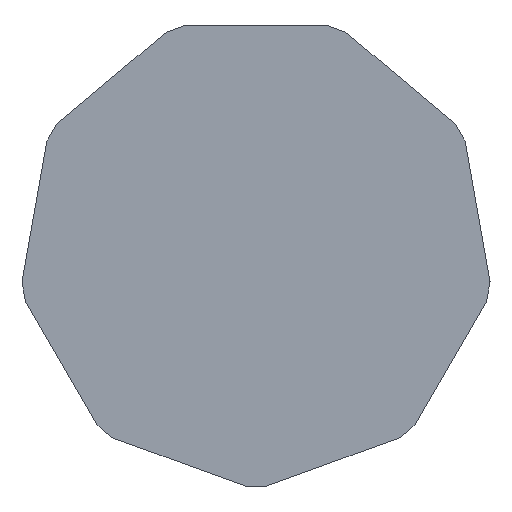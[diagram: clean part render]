
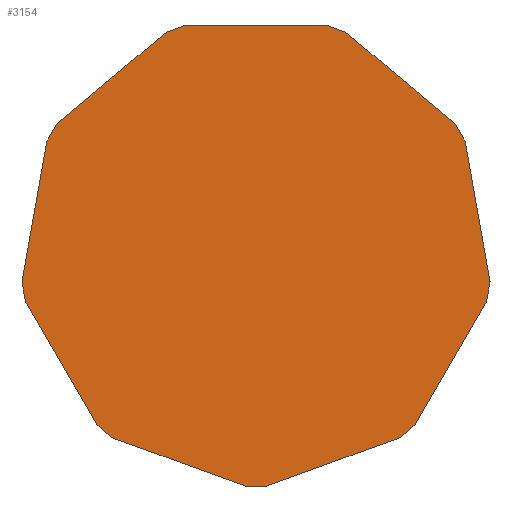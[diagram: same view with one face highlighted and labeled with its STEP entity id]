
A CAD part, front view. The second image highlights one B-rep face of the part: STEP entity #3154.
In plain terms, the highlighted planar face has unit normal (0, -1, 0).
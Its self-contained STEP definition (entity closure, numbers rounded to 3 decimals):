
#54 = PLANE ( 'NONE',  #2437 ) ;
#62 = VERTEX_POINT ( 'NONE', #3467 ) ;
#90 = CARTESIAN_POINT ( 'NONE',  ( -58.972, 0., -76.503 ) ) ;
#127 = VECTOR ( 'NONE', #3585, 1000. ) ;
#150 = CARTESIAN_POINT ( 'NONE',  ( -81.581, 0., 51.72 ) ) ;
#168 = VERTEX_POINT ( 'NONE', #2383 ) ;
#191 = LINE ( 'NONE', #2689, #1286 ) ;
#199 = VERTEX_POINT ( 'NONE', #3295 ) ;
#223 = DIRECTION ( 'NONE',  ( -1., 0., 0. ) ) ;
#226 = ORIENTED_EDGE ( 'NONE', *, *, #2986, .F. ) ;
#233 = VECTOR ( 'NONE', #2913, 1000. ) ;
#252 = EDGE_CURVE ( 'NONE', #3535, #3878, #1773, .T. ) ;
#280 = CARTESIAN_POINT ( 'NONE',  ( 81.581, 0., 51.72 ) ) ;
#319 = EDGE_CURVE ( 'NONE', #2536, #1459, #1919, .T. ) ;
#320 = CARTESIAN_POINT ( 'NONE',  ( -95.74, 0., -12.82 ) ) ;
#351 = ORIENTED_EDGE ( 'NONE', *, *, #2440, .F. ) ;
#405 = CARTESIAN_POINT ( 'NONE',  ( -36.768, 0., 89.323 ) ) ;
#567 = EDGE_CURVE ( 'NONE', #199, #1059, #3117, .T. ) ;
#579 = VERTEX_POINT ( 'NONE', #320 ) ;
#648 = EDGE_CURVE ( 'NONE', #579, #1721, #3694, .T. ) ;
#727 = ORIENTED_EDGE ( 'NONE', *, *, #2242, .F. ) ;
#865 = EDGE_CURVE ( 'NONE', #3118, #62, #1098, .T. ) ;
#898 = CARTESIAN_POINT ( 'NONE',  ( -36.768, 0., 89.323 ) ) ;
#911 = CARTESIAN_POINT ( 'NONE',  ( -94.35, 0., -20.698 ) ) ;
#917 = CARTESIAN_POINT ( 'NONE',  ( -95.74, 0., -12.82 ) ) ;
#950 = CARTESIAN_POINT ( 'NONE',  ( -4., 0., -96.511 ) ) ;
#990 = LINE ( 'NONE', #3766, #2498 ) ;
#1008 = VERTEX_POINT ( 'NONE', #911 ) ;
#1032 = EDGE_CURVE ( 'NONE', #3459, #199, #2752, .T. ) ;
#1059 = VERTEX_POINT ( 'NONE', #1493 ) ;
#1061 = ORIENTED_EDGE ( 'NONE', *, *, #648, .F. ) ;
#1065 = CARTESIAN_POINT ( 'NONE',  ( -65.1, 0., -71.361 ) ) ;
#1098 = LINE ( 'NONE', #2930, #233 ) ;
#1162 = VECTOR ( 'NONE', #3977, 1000. ) ;
#1214 = ORIENTED_EDGE ( 'NONE', *, *, #252, .F. ) ;
#1224 = VECTOR ( 'NONE', #1257, 1000. ) ;
#1257 = DIRECTION ( 'NONE',  ( 1., 0., 0. ) ) ;
#1286 = VECTOR ( 'NONE', #3229, 1000. ) ;
#1336 = EDGE_CURVE ( 'NONE', #3311, #3378, #2455, .T. ) ;
#1369 = DIRECTION ( 'NONE',  ( 0., 0., 1. ) ) ;
#1378 = CARTESIAN_POINT ( 'NONE',  ( 58.972, 0., -76.503 ) ) ;
#1380 = VECTOR ( 'NONE', #3437, 1000. ) ;
#1426 = ORIENTED_EDGE ( 'NONE', *, *, #3722, .F. ) ;
#1459 = VERTEX_POINT ( 'NONE', #405 ) ;
#1493 = CARTESIAN_POINT ( 'NONE',  ( 85.581, 0., 44.791 ) ) ;
#1533 = LINE ( 'NONE', #1816, #2784 ) ;
#1571 = CARTESIAN_POINT ( 'NONE',  ( 29.25, 0., 92.059 ) ) ;
#1582 = ORIENTED_EDGE ( 'NONE', *, *, #1336, .F. ) ;
#1632 = FACE_OUTER_BOUND ( 'NONE', #3647, .T. ) ;
#1691 = ORIENTED_EDGE ( 'NONE', *, *, #865, .F. ) ;
#1713 = CARTESIAN_POINT ( 'NONE',  ( -29.25, 0., 92.059 ) ) ;
#1721 = VERTEX_POINT ( 'NONE', #4003 ) ;
#1773 = LINE ( 'NONE', #3957, #3970 ) ;
#1801 = DIRECTION ( 'NONE',  ( 0.5, 0., -0.866 ) ) ;
#1816 = CARTESIAN_POINT ( 'NONE',  ( -4., 0., -96.511 ) ) ;
#1841 = EDGE_CURVE ( 'NONE', #1459, #3311, #3964, .T. ) ;
#1859 = DIRECTION ( 'NONE',  ( 0.174, 0., 0.985 ) ) ;
#1865 = EDGE_CURVE ( 'NONE', #1059, #3816, #2776, .T. ) ;
#1919 = LINE ( 'NONE', #3817, #1380 ) ;
#1979 = CARTESIAN_POINT ( 'NONE',  ( 65.1, 0., -71.361 ) ) ;
#1986 = CARTESIAN_POINT ( 'NONE',  ( 95.74, 0., -12.82 ) ) ;
#2028 = ORIENTED_EDGE ( 'NONE', *, *, #1032, .F. ) ;
#2045 = VECTOR ( 'NONE', #3971, 1000. ) ;
#2083 = LINE ( 'NONE', #3550, #3996 ) ;
#2090 = VECTOR ( 'NONE', #3667, 1000. ) ;
#2097 = EDGE_CURVE ( 'NONE', #2821, #3118, #2083, .T. ) ;
#2171 = LINE ( 'NONE', #2747, #2045 ) ;
#2178 = CARTESIAN_POINT ( 'NONE',  ( 36.768, 0., 89.323 ) ) ;
#2227 = ORIENTED_EDGE ( 'NONE', *, *, #4022, .F. ) ;
#2242 = EDGE_CURVE ( 'NONE', #2366, #3535, #1533, .T. ) ;
#2252 = VECTOR ( 'NONE', #3435, 1000. ) ;
#2313 = CARTESIAN_POINT ( 'NONE',  ( 94.35, 0., -20.698 ) ) ;
#2341 = VECTOR ( 'NONE', #3644, 1000. ) ;
#2366 = VERTEX_POINT ( 'NONE', #950 ) ;
#2383 = CARTESIAN_POINT ( 'NONE',  ( 4., 0., -96.511 ) ) ;
#2431 = CARTESIAN_POINT ( 'NONE',  ( 85.581, 0., 44.791 ) ) ;
#2437 = AXIS2_PLACEMENT_3D ( 'NONE', #2916, #2549, #1369 ) ;
#2440 = EDGE_CURVE ( 'NONE', #3378, #3459, #191, .T. ) ;
#2455 = LINE ( 'NONE', #3987, #1224 ) ;
#2481 = LINE ( 'NONE', #4012, #2090 ) ;
#2486 = CARTESIAN_POINT ( 'NONE',  ( 36.768, 0., 89.323 ) ) ;
#2498 = VECTOR ( 'NONE', #3170, 1000. ) ;
#2536 = VERTEX_POINT ( 'NONE', #150 ) ;
#2549 = DIRECTION ( 'NONE',  ( 0., 1., 0. ) ) ;
#2615 = EDGE_CURVE ( 'NONE', #1008, #579, #2481, .T. ) ;
#2666 = ORIENTED_EDGE ( 'NONE', *, *, #567, .F. ) ;
#2689 = CARTESIAN_POINT ( 'NONE',  ( 29.25, 0., 92.059 ) ) ;
#2747 = CARTESIAN_POINT ( 'NONE',  ( 95.74, 0., -12.82 ) ) ;
#2752 = LINE ( 'NONE', #2178, #1162 ) ;
#2776 = LINE ( 'NONE', #2431, #3861 ) ;
#2784 = VECTOR ( 'NONE', #3114, 1000. ) ;
#2821 = VERTEX_POINT ( 'NONE', #2313 ) ;
#2843 = ORIENTED_EDGE ( 'NONE', *, *, #1841, .F. ) ;
#2860 = EDGE_CURVE ( 'NONE', #62, #168, #2925, .T. ) ;
#2913 = DIRECTION ( 'NONE',  ( -0.766, 0., -0.643 ) ) ;
#2916 = CARTESIAN_POINT ( 'NONE',  ( 0., 0., 0. ) ) ;
#2925 = LINE ( 'NONE', #1378, #127 ) ;
#2930 = CARTESIAN_POINT ( 'NONE',  ( 65.1, 0., -71.361 ) ) ;
#2941 = ORIENTED_EDGE ( 'NONE', *, *, #1865, .F. ) ;
#2948 = DIRECTION ( 'NONE',  ( -0.766, 0., 0.643 ) ) ;
#2985 = ORIENTED_EDGE ( 'NONE', *, *, #2097, .F. ) ;
#2986 = EDGE_CURVE ( 'NONE', #1721, #2536, #3968, .T. ) ;
#3052 = CARTESIAN_POINT ( 'NONE',  ( -85.581, 0., 44.791 ) ) ;
#3081 = DIRECTION ( 'NONE',  ( 0.174, 0., -0.985 ) ) ;
#3114 = DIRECTION ( 'NONE',  ( -0.94, 0., 0.342 ) ) ;
#3117 = LINE ( 'NONE', #280, #3825 ) ;
#3118 = VERTEX_POINT ( 'NONE', #1979 ) ;
#3154 = ADVANCED_FACE ( 'NONE', ( #1632 ), #54, .F. ) ;
#3170 = DIRECTION ( 'NONE',  ( -0.5, 0., 0.866 ) ) ;
#3215 = VECTOR ( 'NONE', #223, 1000. ) ;
#3229 = DIRECTION ( 'NONE',  ( 0.94, 0., -0.342 ) ) ;
#3256 = ORIENTED_EDGE ( 'NONE', *, *, #319, .F. ) ;
#3295 = CARTESIAN_POINT ( 'NONE',  ( 81.581, 0., 51.72 ) ) ;
#3311 = VERTEX_POINT ( 'NONE', #1713 ) ;
#3318 = DIRECTION ( 'NONE',  ( -0.5, 0., -0.866 ) ) ;
#3361 = ORIENTED_EDGE ( 'NONE', *, *, #2615, .F. ) ;
#3378 = VERTEX_POINT ( 'NONE', #1571 ) ;
#3435 = DIRECTION ( 'NONE',  ( 0.94, 0., 0.342 ) ) ;
#3437 = DIRECTION ( 'NONE',  ( 0.766, 0., 0.643 ) ) ;
#3459 = VERTEX_POINT ( 'NONE', #2486 ) ;
#3467 = CARTESIAN_POINT ( 'NONE',  ( 58.972, 0., -76.503 ) ) ;
#3495 = EDGE_CURVE ( 'NONE', #3878, #1008, #990, .T. ) ;
#3535 = VERTEX_POINT ( 'NONE', #90 ) ;
#3550 = CARTESIAN_POINT ( 'NONE',  ( 94.35, 0., -20.698 ) ) ;
#3555 = ORIENTED_EDGE ( 'NONE', *, *, #3495, .F. ) ;
#3577 = ORIENTED_EDGE ( 'NONE', *, *, #2860, .F. ) ;
#3585 = DIRECTION ( 'NONE',  ( -0.94, 0., -0.342 ) ) ;
#3640 = LINE ( 'NONE', #3948, #3215 ) ;
#3644 = DIRECTION ( 'NONE',  ( 0.5, 0., 0.866 ) ) ;
#3647 = EDGE_LOOP ( 'NONE', ( #1582, #2843, #3256, #226, #1061, #3361, #3555, #1214, #727, #2227, #3577, #1691, #2985, #1426, #2941, #2666, #2028, #351 ) ) ;
#3667 = DIRECTION ( 'NONE',  ( -0.174, 0., 0.985 ) ) ;
#3694 = LINE ( 'NONE', #917, #3698 ) ;
#3698 = VECTOR ( 'NONE', #1859, 1000. ) ;
#3722 = EDGE_CURVE ( 'NONE', #3816, #2821, #2171, .T. ) ;
#3766 = CARTESIAN_POINT ( 'NONE',  ( -65.1, 0., -71.361 ) ) ;
#3816 = VERTEX_POINT ( 'NONE', #1986 ) ;
#3817 = CARTESIAN_POINT ( 'NONE',  ( -81.581, 0., 51.72 ) ) ;
#3825 = VECTOR ( 'NONE', #1801, 1000. ) ;
#3861 = VECTOR ( 'NONE', #3081, 1000. ) ;
#3878 = VERTEX_POINT ( 'NONE', #1065 ) ;
#3948 = CARTESIAN_POINT ( 'NONE',  ( 4., 0., -96.511 ) ) ;
#3957 = CARTESIAN_POINT ( 'NONE',  ( -58.972, 0., -76.503 ) ) ;
#3964 = LINE ( 'NONE', #898, #2252 ) ;
#3968 = LINE ( 'NONE', #3052, #2341 ) ;
#3970 = VECTOR ( 'NONE', #2948, 1000. ) ;
#3971 = DIRECTION ( 'NONE',  ( -0.174, 0., -0.985 ) ) ;
#3977 = DIRECTION ( 'NONE',  ( 0.766, 0., -0.643 ) ) ;
#3987 = CARTESIAN_POINT ( 'NONE',  ( -29.25, 0., 92.059 ) ) ;
#3996 = VECTOR ( 'NONE', #3318, 1000. ) ;
#4003 = CARTESIAN_POINT ( 'NONE',  ( -85.581, 0., 44.791 ) ) ;
#4012 = CARTESIAN_POINT ( 'NONE',  ( -94.35, 0., -20.698 ) ) ;
#4022 = EDGE_CURVE ( 'NONE', #168, #2366, #3640, .T. ) ;
